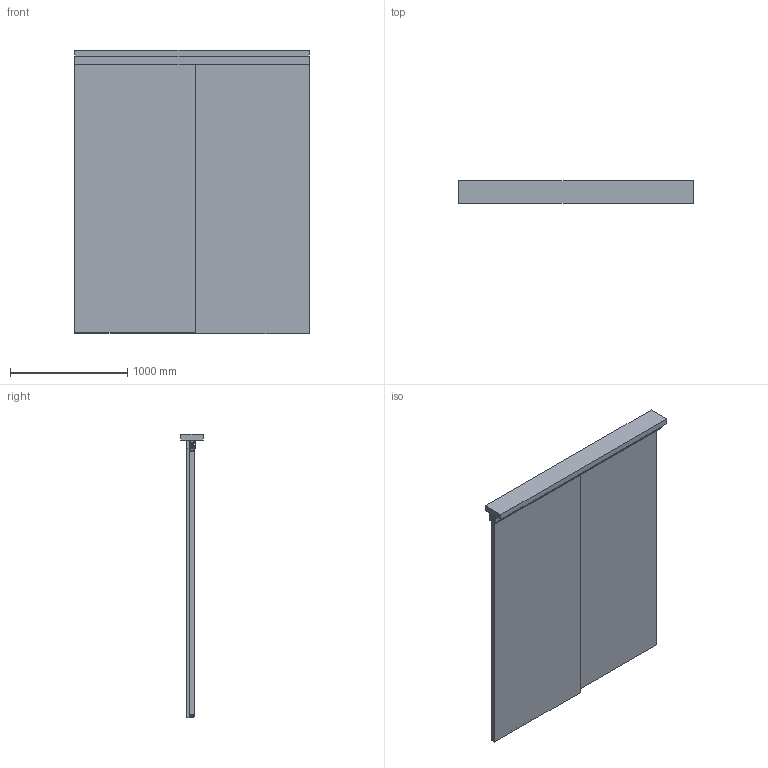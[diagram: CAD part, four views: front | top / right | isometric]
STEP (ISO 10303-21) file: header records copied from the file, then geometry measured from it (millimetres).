
FILE_DESCRIPTION(('STEP AP242'),'1');
FILE_NAME('OPO_65.084.05.stp','2026-02-23T17:28:11',(' '),(' '),'Spatial InterOp 3D',' ',' ');
FILE_SCHEMA(('AP242_MANAGED_MODEL_BASED_3D_ENGINEERING_MIM_LF {1 0 10303 442 1 1 4}'));
Length unit declared in the file: millimetre
Products named in the file (14): Zeichnung1; OPO_65.084.05_Bodenfuehrung_Holz; OPO_65.082.61; OPO_65.084.05_Aufhaengung_minimal_Holz_E_Space; OPO_65.084.05_Magnetantrieb_Teil1; OPO_65.084.05_Magnetantrieb_Teil2; OPO_65.084.05_Magnetantrieb_Teil3; OPO_65.084.05_Magnetantrieb_Teil4; OPO_65.084.05_Magnetantrieb_Teil5; OPO_65.084.05_Magnetantrieb_Teil6; OPO_65.084.05_Magnetantrieb_Teil7; OPO_65.084.05_Magnetantrieb_Teil8; OPO_65.084.32; AutoCreatedBlock_162
Assembly tree (15 placements, depth 2):
  Zeichnung1
    OPO_65.084.05_Bodenfuehrung_Holz
    OPO_65.082.61
    OPO_65.084.05_Aufhaengung_minimal_Holz_E_Space  x2
    OPO_65.084.05_Magnetantrieb_Teil1
    OPO_65.084.05_Magnetantrieb_Teil2
    OPO_65.084.05_Magnetantrieb_Teil3
    OPO_65.084.05_Magnetantrieb_Teil4
    OPO_65.084.05_Magnetantrieb_Teil5  x2
    OPO_65.084.05_Magnetantrieb_Teil6
    OPO_65.084.05_Magnetantrieb_Teil7
    OPO_65.084.05_Magnetantrieb_Teil8
    OPO_65.084.32
    AutoCreatedBlock_162
Bounding box: 2000.5 x 188 x 2418 mm (x, y, z)
Volume: 162985905.4 mm3; surface area: 12974625.2 mm2
Topology: 71 solids, 71 shells, 1658 faces, 4329 edges, 2872 vertices
Faces by surface type: plane 1051, cylinder 605, cone 2
Entity records: 58618 total; most frequent: CARTESIAN_POINT 8513, DIRECTION 7969, ORIENTED_EDGE 7790, EDGE_CURVE 3895, LINE 2769, VECTOR 2769, AXIS2_PLACEMENT_3D 2600, VERTEX_POINT 2584
